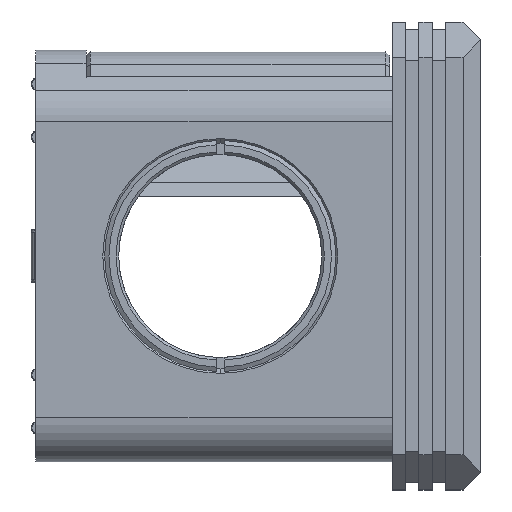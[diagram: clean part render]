
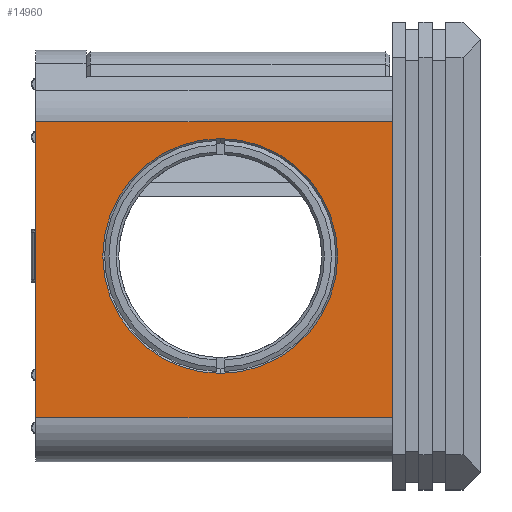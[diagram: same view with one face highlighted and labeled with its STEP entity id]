
A CAD part, left-side view. The second image highlights one B-rep face of the part: STEP entity #14960.
In plain terms, the highlighted planar face has unit normal (-1, 0, 0).
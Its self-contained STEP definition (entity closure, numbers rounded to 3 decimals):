
#19 = CARTESIAN_POINT ( 'NONE',  ( -23.3, 10., -23.3 ) ) ;
#294 = LINE ( 'NONE', #9710, #10817 ) ;
#579 = FACE_BOUND ( 'NONE', #13705, .T. ) ;
#836 = DIRECTION ( 'NONE',  ( 0., -1., 0. ) ) ;
#854 = DIRECTION ( 'NONE',  ( 1., 0., 0. ) ) ;
#1505 = AXIS2_PLACEMENT_3D ( 'NONE', #13255, #854, #6363 ) ;
#1591 = ORIENTED_EDGE ( 'NONE', *, *, #10300, .T. ) ;
#1758 = EDGE_CURVE ( 'NONE', #4554, #2072, #17117, .T. ) ;
#1849 = ORIENTED_EDGE ( 'NONE', *, *, #7612, .F. ) ;
#1855 = EDGE_CURVE ( 'NONE', #16212, #11776, #2468, .T. ) ;
#2072 = VERTEX_POINT ( 'NONE', #10307 ) ;
#2316 = VERTEX_POINT ( 'NONE', #16822 ) ;
#2468 = LINE ( 'NONE', #5270, #4390 ) ;
#2672 = EDGE_CURVE ( 'NONE', #2072, #4554, #5449, .T. ) ;
#2965 = EDGE_CURVE ( 'NONE', #10885, #2316, #17132, .T. ) ;
#4390 = VECTOR ( 'NONE', #17687, 1000. ) ;
#4554 = VERTEX_POINT ( 'NONE', #10649 ) ;
#4722 = CARTESIAN_POINT ( 'NONE',  ( -23.3, 10., -18.3 ) ) ;
#5270 = CARTESIAN_POINT ( 'NONE',  ( -23.3, 10., 15.229 ) ) ;
#5446 = LINE ( 'NONE', #10956, #14542 ) ;
#5449 = CIRCLE ( 'NONE', #7531, 13.3 ) ;
#5499 = AXIS2_PLACEMENT_3D ( 'NONE', #19, #10878, #10695 ) ;
#6363 = DIRECTION ( 'NONE',  ( 0., 0., 1. ) ) ;
#7464 = ORIENTED_EDGE ( 'NONE', *, *, #1758, .T. ) ;
#7531 = AXIS2_PLACEMENT_3D ( 'NONE', #9185, #14707, #17250 ) ;
#7612 = EDGE_CURVE ( 'NONE', #16212, #2316, #294, .T. ) ;
#7693 = ORIENTED_EDGE ( 'NONE', *, *, #2672, .T. ) ;
#8073 = FACE_OUTER_BOUND ( 'NONE', #15208, .T. ) ;
#8446 = CARTESIAN_POINT ( 'NONE',  ( -23.3, 50.4, -18.3 ) ) ;
#9185 = CARTESIAN_POINT ( 'NONE',  ( -23.3, 29.5, 0. ) ) ;
#9710 = CARTESIAN_POINT ( 'NONE',  ( -23.3, 10., -23.3 ) ) ;
#10300 = EDGE_CURVE ( 'NONE', #11776, #10885, #5446, .T. ) ;
#10307 = CARTESIAN_POINT ( 'NONE',  ( -23.3, 29.5, -13.3 ) ) ;
#10649 = CARTESIAN_POINT ( 'NONE',  ( -23.3, 29.5, 13.3 ) ) ;
#10695 = DIRECTION ( 'NONE',  ( 0., 0., 1. ) ) ;
#10817 = VECTOR ( 'NONE', #13798, 1000. ) ;
#10878 = DIRECTION ( 'NONE',  ( 1., 0., 0. ) ) ;
#10885 = VERTEX_POINT ( 'NONE', #8446 ) ;
#10956 = CARTESIAN_POINT ( 'NONE',  ( -23.3, 50.4, -23.3 ) ) ;
#11150 = VECTOR ( 'NONE', #836, 1000. ) ;
#11776 = VERTEX_POINT ( 'NONE', #12064 ) ;
#12064 = CARTESIAN_POINT ( 'NONE',  ( -23.3, 50.4, 15.229 ) ) ;
#12733 = ORIENTED_EDGE ( 'NONE', *, *, #2965, .T. ) ;
#13234 = CARTESIAN_POINT ( 'NONE',  ( -23.3, 10., 15.229 ) ) ;
#13255 = CARTESIAN_POINT ( 'NONE',  ( -23.3, 29.5, 0. ) ) ;
#13705 = EDGE_LOOP ( 'NONE', ( #7693, #7464 ) ) ;
#13798 = DIRECTION ( 'NONE',  ( 0., 0., -1. ) ) ;
#14542 = VECTOR ( 'NONE', #16673, 1000. ) ;
#14707 = DIRECTION ( 'NONE',  ( 1., 0., 0. ) ) ;
#14960 = ADVANCED_FACE ( 'NONE', ( #579, #8073 ), #17772, .F. ) ;
#15208 = EDGE_LOOP ( 'NONE', ( #1849, #17150, #1591, #12733 ) ) ;
#16212 = VERTEX_POINT ( 'NONE', #13234 ) ;
#16673 = DIRECTION ( 'NONE',  ( 0., 0., -1. ) ) ;
#16822 = CARTESIAN_POINT ( 'NONE',  ( -23.3, 10., -18.3 ) ) ;
#17117 = CIRCLE ( 'NONE', #1505, 13.3 ) ;
#17132 = LINE ( 'NONE', #4722, #11150 ) ;
#17150 = ORIENTED_EDGE ( 'NONE', *, *, #1855, .T. ) ;
#17250 = DIRECTION ( 'NONE',  ( 0., 0., 1. ) ) ;
#17687 = DIRECTION ( 'NONE',  ( 0., 1., 0. ) ) ;
#17772 = PLANE ( 'NONE',  #5499 ) ;
